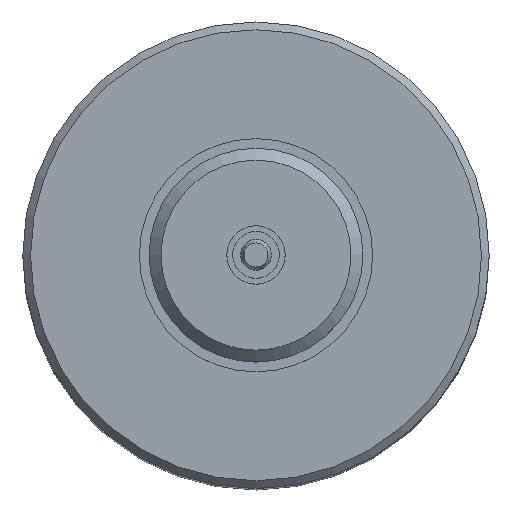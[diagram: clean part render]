
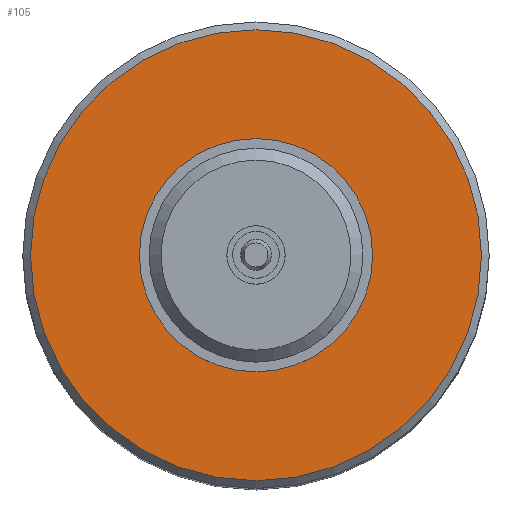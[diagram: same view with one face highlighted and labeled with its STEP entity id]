
A CAD part, top view. The second image highlights one B-rep face of the part: STEP entity #105.
In plain terms, the highlighted planar face has unit normal (0, 0, 1).
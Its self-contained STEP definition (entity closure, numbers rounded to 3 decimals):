
#105=ADVANCED_FACE('',(#279,#280),#173,.T.);
#173=PLANE('',#1158);
#224=CIRCLE('',#1156,5.8);
#225=CIRCLE('',#1157,3.);
#279=FACE_BOUND('',#347,.T.);
#280=FACE_BOUND('',#348,.T.);
#347=EDGE_LOOP('',(#475));
#348=EDGE_LOOP('',(#476));
#475=ORIENTED_EDGE('',*,*,#850,.T.);
#476=ORIENTED_EDGE('',*,*,#851,.F.);
#749=VERTEX_POINT('',#1668);
#750=VERTEX_POINT('',#1670);
#850=EDGE_CURVE('',#749,#749,#224,.T.);
#851=EDGE_CURVE('',#750,#750,#225,.T.);
#1156=AXIS2_PLACEMENT_3D('',#1667,#1320,#1321);
#1157=AXIS2_PLACEMENT_3D('',#1669,#1322,#1323);
#1158=AXIS2_PLACEMENT_3D('',#1671,#1324,#1325);
#1320=DIRECTION('',(0.,0.,1.));
#1321=DIRECTION('',(1.,0.,0.));
#1322=DIRECTION('',(0.,0.,1.));
#1323=DIRECTION('',(1.,0.,0.));
#1324=DIRECTION('',(0.,0.,1.));
#1325=DIRECTION('',(1.,0.,0.));
#1667=CARTESIAN_POINT('',(0.,0.,0.));
#1668=CARTESIAN_POINT('',(5.8,0.,0.));
#1669=CARTESIAN_POINT('',(0.,0.,0.));
#1670=CARTESIAN_POINT('',(3.,0.,0.));
#1671=CARTESIAN_POINT('',(0.,0.,0.));
